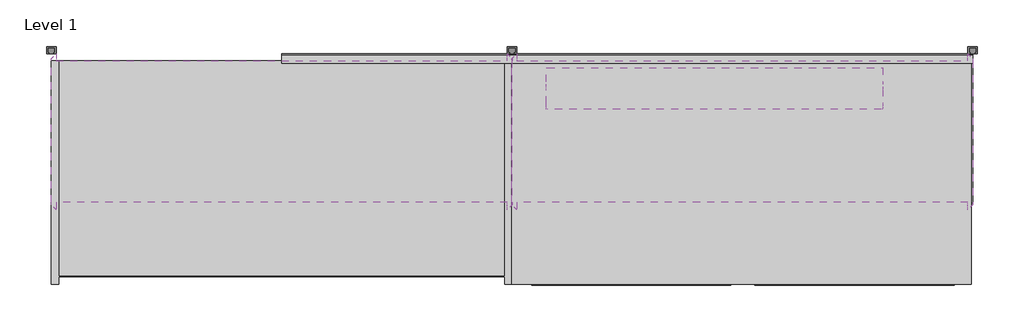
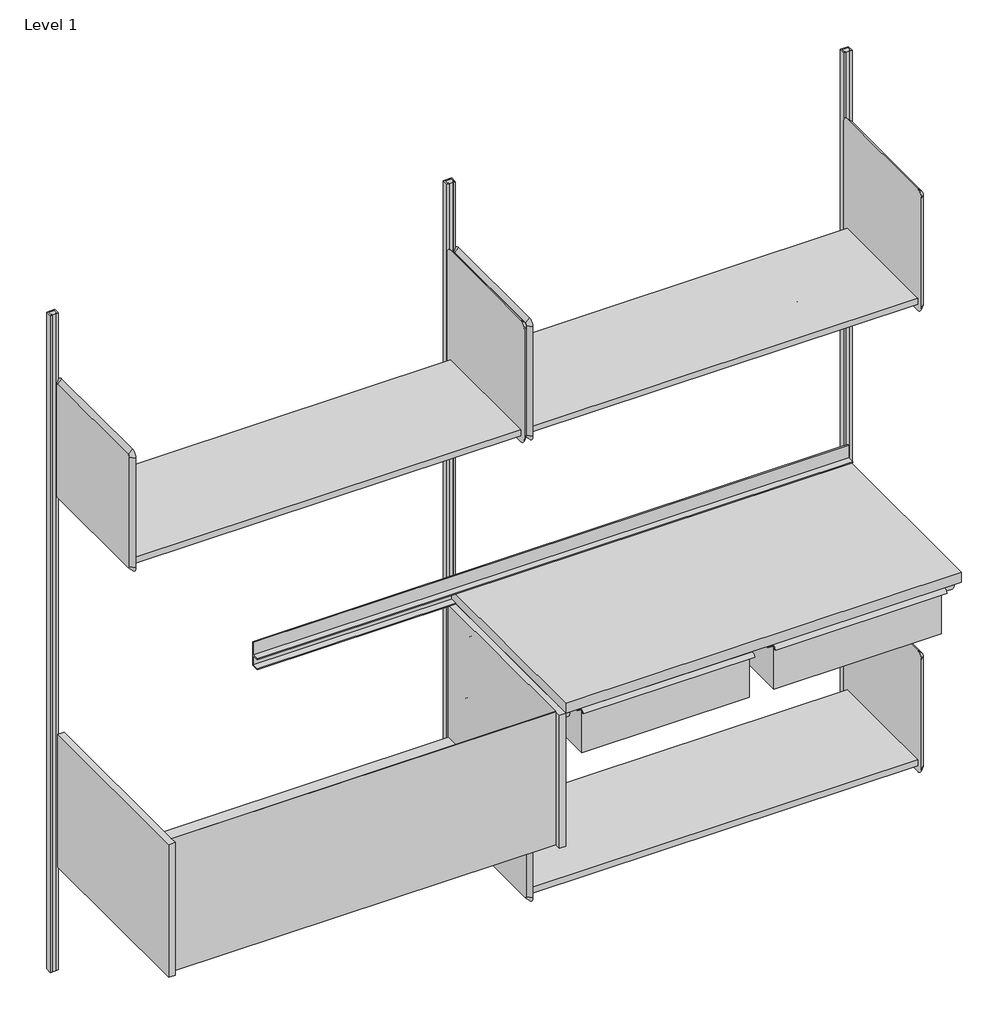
# One storey, incomplete: 12 furniture elements, 1 light fixture.
"""IFC4 building model written with IfcOpenShell, lengths in millimetres."""

from ifc_helpers import new_model, si_unit, origin, place, context, project, spatial, transform, mapped, element, save
from components import furniture_d92eedc3, furniture_ea4a19f1, furniture_84a85ef8, furniture_de886b3f, furniture_d0a76615, furniture_5dd508a7, furniture_ea425779, b_6_ee692ebc, light_fixture_4650a7c5

model = new_model("IFC4")

# Units and contexts
model_context = context("Model", 3, world=origin())
ifc_project = project(units=[si_unit("LENGTHUNIT", "METRE", prefix="MILLI")], contexts=[model_context])

# Site, building, storey
site = spatial("IfcSite", under=ifc_project)
building = spatial("IfcBuilding", under=site)
storey = spatial("IfcBuildingStorey", under=building, Name="Level 1", Elevation=0.0)

# Furniture
placement = place(None, origin())
furniture_shape = furniture_d92eedc3(model_context)
element("IfcFurniture", 1, ObjectType="HermanMiller_CoStruc_C2910_WorkSurfaceBacksplash : 3\"H x 72\"W", at=placement, inside=storey, context=model_context, shape_type="MappedRepresentation", body=[
    mapped(furniture_shape, transform((1524.0, -19.05, 0.0), x_axis=(1.0, 0.0, 0.0), y_axis=(0.0, 1.0, 0.0), z_axis=(0.0, 0.0, 1.0))),
])
furniture_2_shape = furniture_ea4a19f1(model_context)
element("IfcFurniture", 2, ObjectType="HermanMiller_CoStruc_C2512_SinkModule : 18\"H x 24\"D x 48\"W", at=placement, inside=storey, context=model_context, shape_type="MappedRepresentation", body=[
    mapped(furniture_2_shape, transform((609.6, -206.375, 0.0), x_axis=(1.0, 0.0, 0.0), y_axis=(0.0, 1.0, 0.0), z_axis=(0.0, 0.0, 1.0))),
])
furniture_3_shape = furniture_84a85ef8(model_context)
element("IfcFurniture", 3, ObjectType="HermanMiller_CoStruc_C2140H_WorkSurfaceSupport_Heavy Duty : 11\"H x 24\"D x 48\"W", at=placement, inside=storey, context=model_context, shape_type="MappedRepresentation", body=[
    mapped(furniture_3_shape, transform((1827.17694, -196.85, 0.0), x_axis=(1.0, 0.0, 0.0), y_axis=(0.0, 1.0, 0.0), z_axis=(0.0, 0.0, 1.0))),
])
furniture_4_shape = furniture_de886b3f(model_context)
element("IfcFurniture", 4, ObjectType="HermanMiller_CoStruc_C2141_Heavy-DutyWorkSurface : 24\"D x 48\"W Lam", at=placement, inside=storey, context=model_context, shape_type="MappedRepresentation", body=[
    mapped(furniture_4_shape, transform((1522.37694, -196.85, 0.0), x_axis=(1.0, 0.0, 0.0), y_axis=(0.0, 1.0, 0.0), z_axis=(0.0, 0.0, 1.0))),
])
furniture_5_shape = furniture_d0a76615(model_context)
element("IfcFurniture", 5, ObjectType="HermanMiller_ActionOffice_A3210_B-StyleShelf : 15-1/2H 16D 48W", at=placement, inside=storey, context=model_context, shape_type="MappedRepresentation", body=[
    mapped(furniture_5_shape, transform((1952.7420045, -238.125, 0.0), x_axis=(1.0, 0.0, 0.0), y_axis=(0.0, 1.0, 0.0), z_axis=(0.0, 0.0, 1.0))),
])
furniture_6_shape = furniture_5dd508a7(model_context)
element("IfcFurniture", 6, ObjectType="HermanMiller_ActionOffice_A3210_B-StyleShelf : 15-1/2H 16D 48W", at=placement, inside=storey, context=model_context, shape_type="MappedRepresentation", body=[
    mapped(furniture_6_shape, transform((1952.7420045, -238.125, 0.0), x_axis=(1.0, 0.0, 0.0), y_axis=(0.0, 1.0, 0.0), z_axis=(0.0, 0.0, 1.0))),
])
element("IfcFurniture", 7, ObjectType="HermanMiller_ActionOffice_A3210_B-StyleShelf : 15-1/2H 16D 48W", at=placement, inside=storey, context=model_context, shape_type="MappedRepresentation", body=[
    mapped(furniture_6_shape, transform((733.5420045, -238.125, 0.0), x_axis=(1.0, 0.0, 0.0), y_axis=(0.0, 1.0, 0.0), z_axis=(0.0, 0.0, 1.0))),
])
furniture_7_shape = furniture_ea425779(model_context)
element("IfcFurniture", 8, ObjectType="HermanMiller_ActionOffice_AO213_WallStrip : 84\"H", at=placement, inside=storey, context=model_context, shape_type="MappedRepresentation", body=[
    mapped(furniture_7_shape, transform((1219.2, 0.0, 0.0), x_axis=(1.0, 0.0, 0.0), y_axis=(0.0, 1.0, 0.0), z_axis=(0.0, 0.0, 1.0))),
])
element("IfcFurniture", 9, ObjectType="HermanMiller_ActionOffice_AO213_WallStrip : 84\"H", at=placement, inside=storey, context=model_context, shape_type="MappedRepresentation", body=[
    mapped(furniture_7_shape, transform((2438.4, 0.0, 0.0), x_axis=(1.0, 0.0, 0.0), y_axis=(0.0, 1.0, 0.0), z_axis=(0.0, 0.0, 1.0))),
])
element("IfcFurniture", 10, ObjectType="HermanMiller_ActionOffice_AO213_WallStrip : 84\"H", at=placement, inside=storey, context=model_context, shape_type="MappedRepresentation", body=[
    mapped(furniture_7_shape, transform((0.0, 0.0, 0.0), x_axis=(1.0, 0.0, 0.0), y_axis=(0.0, 1.0, 0.0), z_axis=(0.0, 0.0, 1.0))),
])
b_6_shape = b_6_ee692ebc(model_context)
element("IfcFurniture", 11, ObjectType="HermanMiller_CoStruc_CO207_Drawer : B - 6", at=placement, inside=storey, context=model_context, shape_type="MappedRepresentation", body=[
    mapped(b_6_shape, transform((2125.5595917, -436.5879, 0.0), x_axis=(1.0, 0.0, 0.0), y_axis=(0.0, 1.0, 0.0), z_axis=(0.0, 0.0, 1.0))),
])
element("IfcFurniture", 12, ObjectType="HermanMiller_CoStruc_CO207_Drawer : B - 6", at=placement, inside=storey, context=model_context, shape_type="MappedRepresentation", body=[
    mapped(b_6_shape, transform((1535.0095917, -436.5879, 0.0), x_axis=(1.0, 0.0, 0.0), y_axis=(0.0, 1.0, 0.0), z_axis=(0.0, 0.0, 1.0))),
])

# Light fixture
light_fixture_shape = light_fixture_4650a7c5(model_context)
element("IfcLightFixture", 13, ObjectType="HermanMiller_SupplementalProducts_G6136_UtilityTaskLight : AO Etho Canvas 42W", at=placement, inside=storey, context=model_context, shape_type="MappedRepresentation", body=[
    mapped(light_fixture_shape, transform((1755.29494, -111.125, 0.0), x_axis=(1.0, 0.0, 0.0), y_axis=(0.0, 1.0, 0.0), z_axis=(0.0, 0.0, 1.0))),
])

save(model, "model.ifc")
